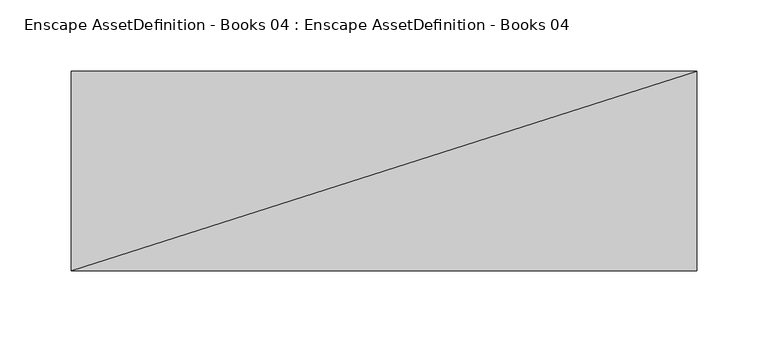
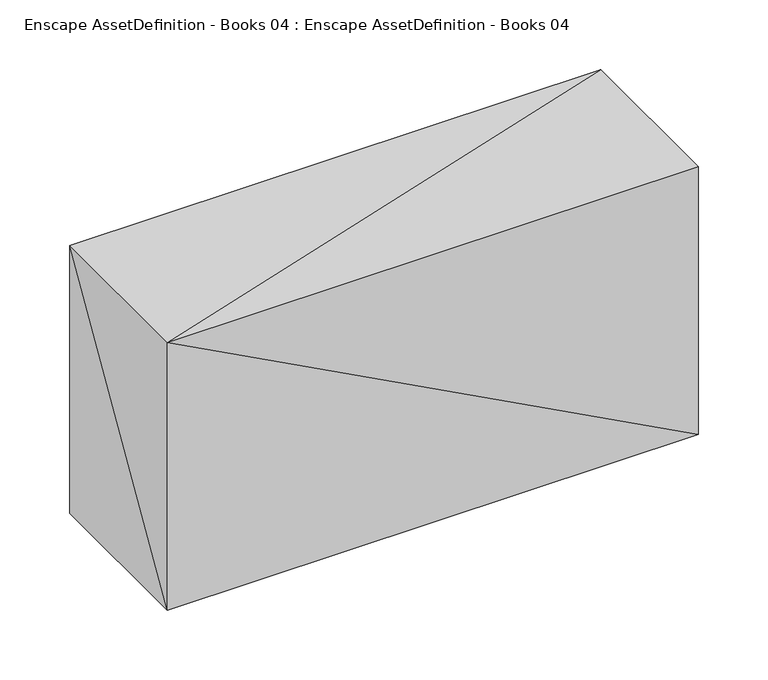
"""IFC4 building model written with IfcOpenShell, lengths in millimetres: geographic element geometry, Enscape AssetDefinition - Books 04 : Enscape AssetDefinition - Books 04."""

from ifc_helpers import new_model, si_unit, origin, place, context, project, spatial, faceted_brep, source, transform, mapped, element, save


def enscape_assetdefinition_books_04_enscape_assetdefinition_721f77ca(model_context):
    return source(origin(), model_context, "Body", "Brep", [
        faceted_brep([(219.3959504, 70.434019, 234.3539745), (-219.6294516, 70.434019, 234.3539745), (-219.6294516, -69.5327222, 234.3539745), (219.3959504, -69.5327222, 234.3539745), (219.3959504, 70.434019, 0.0), (219.3959504, -69.5327222, 0.0), (-219.6294516, -69.5327222, 0.0), (-219.6294516, 70.434019, 0.0)], [[[0, 1, 2]], [[2, 3, 0]], [[4, 5, 6]], [[6, 7, 4]], [[5, 3, 2]], [[2, 6, 5]], [[4, 0, 3]], [[3, 5, 4]], [[7, 1, 0]], [[0, 4, 7]], [[6, 2, 1]], [[1, 7, 6]]]),
    ])


if __name__ == "__main__":
    model = new_model("IFC4")
    model_context = context("Model", 3, world=origin())
    ifc_project = project(units=[si_unit("LENGTHUNIT", "METRE", prefix="MILLI")], contexts=[model_context])
    site = spatial("IfcSite", under=ifc_project)
    building = spatial("IfcBuilding", under=site)
    placement = place(None, origin())
    enscape_assetdefinition_books_04_enscape_assetdefinition_shape = enscape_assetdefinition_books_04_enscape_assetdefinition_721f77ca(model_context)
    element("IfcGeographicElement", 1, ObjectType="Enscape AssetDefinition - Books 04 : Enscape AssetDefinition - Books 04", at=placement, inside=building, context=model_context, shape_type="MappedRepresentation", body=[
        mapped(enscape_assetdefinition_books_04_enscape_assetdefinition_shape, transform((0.0, 0.0, 0.0), x_axis=(1.0, 0.0, 0.0), y_axis=(0.0, 1.0, 0.0), z_axis=(0.0, 0.0, 1.0))),
    ])
    save(model, "model.ifc")
